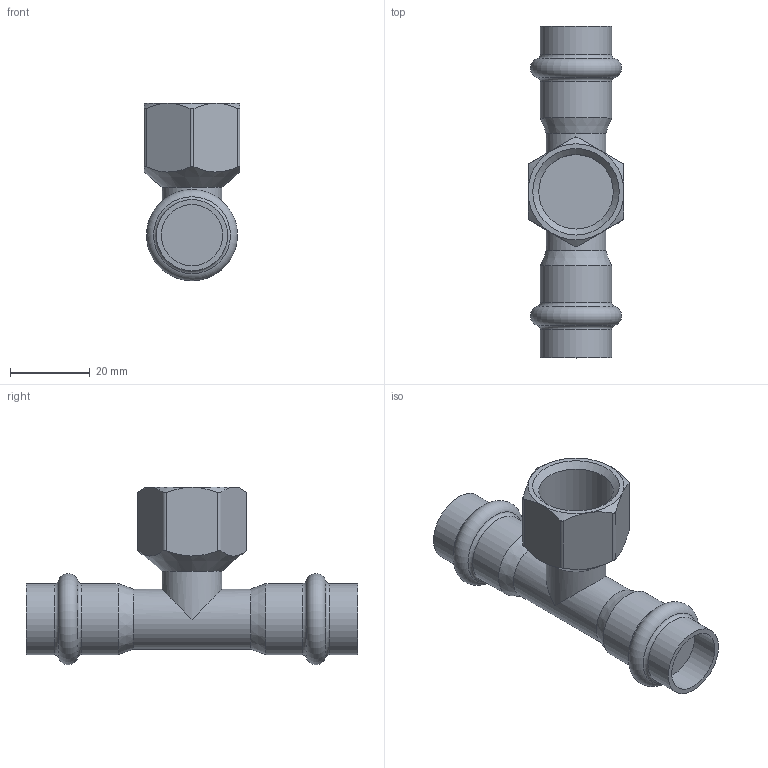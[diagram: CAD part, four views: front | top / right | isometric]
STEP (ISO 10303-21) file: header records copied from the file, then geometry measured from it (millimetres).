
FILE_DESCRIPTION(('STEP AP203'), '1');
FILE_NAME('VTi.932.I.150415', '', ('UNSPECIFIED'), ('UNSPECIFIED'), 'C3D Converter', 'C3D Toolkit', '');
FILE_SCHEMA(('CONFIG_CONTROL_DESIGN'));
Length unit declared in the file: millimetre
Bounding box: 24 x 83 x 44.4 mm (x, y, z)
Volume: 23277.5 mm3; surface area: 9212.5 mm2
Topology: 1 solids, 1 shells, 43 faces, 95 edges, 57 vertices
Faces by surface type: cylinder 15, plane 12, cone 10, torus 6
Full cylindrical faces by diameter (mm): 15 x2, 15.3 x2, 17.8 x4, 18.632 x1
Entity records: 1999 total; most frequent: CARTESIAN_POINT 1144, DIRECTION 156, ORIENTED_EDGE 150, EDGE_CURVE 75, AXIS2_PLACEMENT_3D 72, EDGE_LOOP 66, VERTEX_POINT 57, ADVANCED_FACE 43
